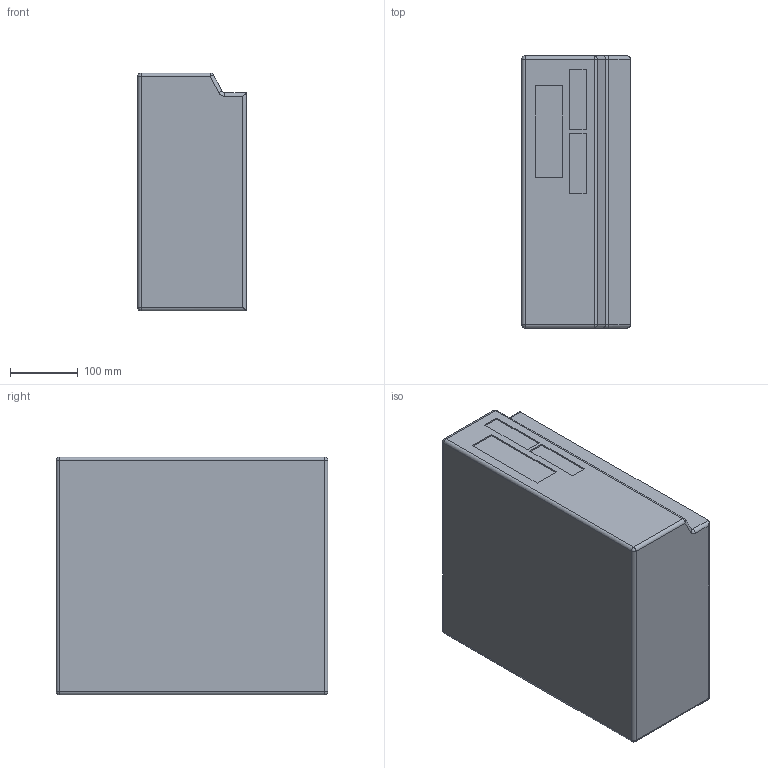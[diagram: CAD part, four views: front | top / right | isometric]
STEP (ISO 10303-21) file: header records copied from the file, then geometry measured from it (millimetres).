
FILE_DESCRIPTION((''),'2;1');
FILE_NAME('A2000_CAD-DE','2004-10-27T',('Ano Nym'),('Eugen Laegler GmbH'),'PRO/ENGINEER BY PARAMETRIC TECHNOLOGY CORPORATION, 2004080','PRO/ENGINEER BY PARAMETRIC TECHNOLOGY CORPORATION, 2004080','');
FILE_SCHEMA(('CONFIG_CONTROL_DESIGN'));
Length unit declared in the file: millimetre
Products named in the file (1): A2000_CAD-DE
Bounding box: 160 x 400 x 350 mm (x, y, z)
Volume: 21204855.3 mm3; surface area: 530229.8 mm2
Topology: 1 solids, 1 shells, 92 faces, 211 edges, 136 vertices
Faces by surface type: plane 68, cylinder 16, sphere 6, torus 2
Entity records: 2600 total; most frequent: CARTESIAN_POINT 470, DIRECTION 419, ORIENTED_EDGE 416, EDGE_CURVE 208, VECTOR 181, LINE 181, VERTEX_POINT 130, AXIS2_PLACEMENT_3D 119
